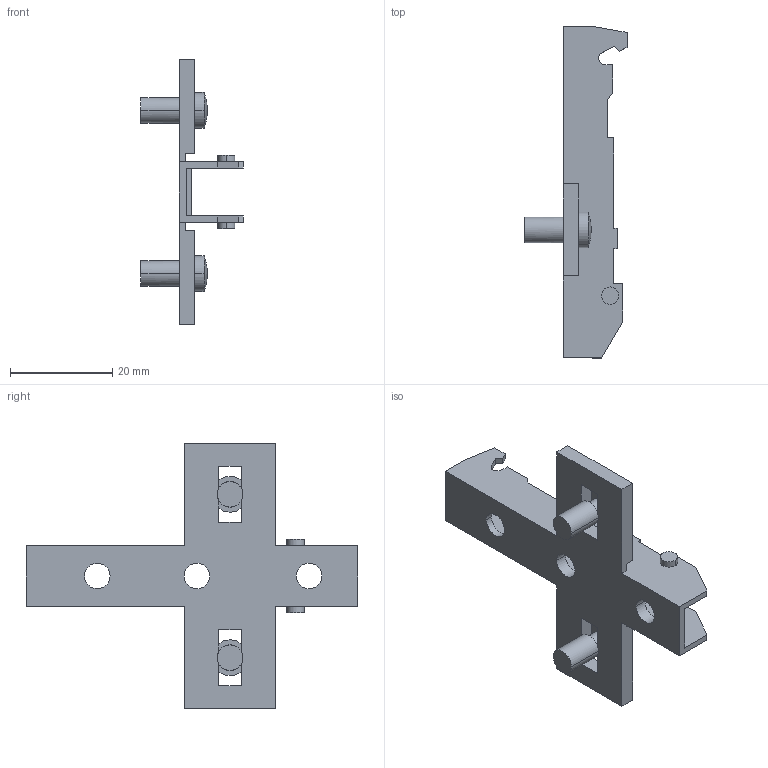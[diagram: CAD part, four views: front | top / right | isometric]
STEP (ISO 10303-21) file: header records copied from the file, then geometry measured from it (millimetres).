
FILE_DESCRIPTION (( 'STEP AP214' ), '1' );
FILE_NAME ('Eco Kreuzmontageplatte LR37_32_Dübel 5mm_kurz_H02.step', '2010-11-18T10:07:14', ( 'grass' ), ( '' ), 'SwSTEP 2.0', 'SolidWorks 2010', '' );
FILE_SCHEMA (( 'AUTOMOTIVE_DESIGN' ));
Length unit declared in the file: millimetre
Products named in the file (1): Eco Kreuzmontageplatte LR37_32_Dübel 5mm_kurz_H02
Bounding box: 20 x 65 x 52 mm (x, y, z)
Volume: 4893.7 mm3; surface area: 6332.9 mm2
Topology: 1 solids, 1 shells, 104 faces, 310 edges, 202 vertices
Faces by surface type: plane 76, cylinder 24, sphere 4
Entity records: 3552 total; most frequent: ORIENTED_EDGE 620, CARTESIAN_POINT 617, DIRECTION 592, EDGE_CURVE 310, VECTOR 238, LINE 238, VERTEX_POINT 202, AXIS2_PLACEMENT_3D 177
